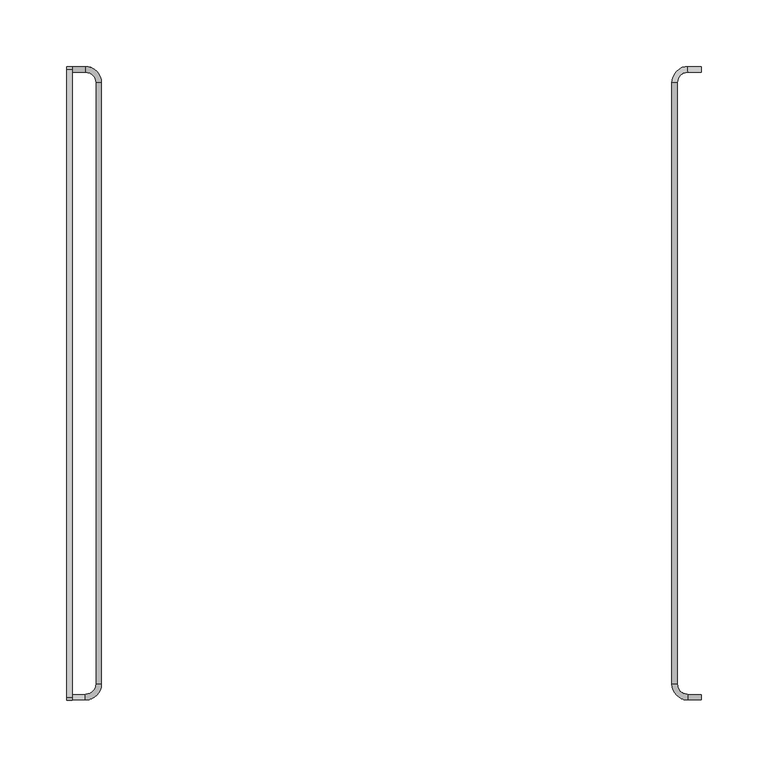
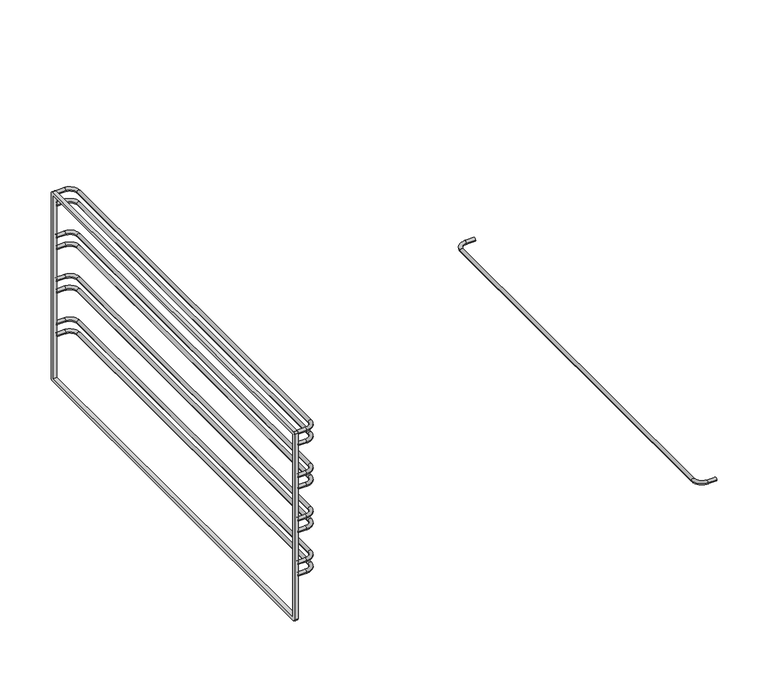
"""IFC4 building model written with IfcOpenShell, lengths in millimetres: proxy geometry, Horno_-_Microondas__Oven_-_Microwave_16796 : Horno_-_Microondas__Oven_-_Microwave_16796."""

from ifc_helpers import new_model, si_unit, point, frame, frame_2d, origin, place, context, project, spatial, polyline, circle_curve, ellipse_curve, trimmed, segment, composite_curve, outline, extrude, source, transform, mapped, element, save
from ifc_brep_helpers import plane_surface, cylinder_surface, revolved_surface, advanced_brep


def specialty_equipment_c4bc254f(model_context):
    return source(origin(), model_context, "Body", "SolidModel", [
        advanced_brep(
        [(-236.0, 496.0039923, 213.702372), (-236.0, 500.0039923, 213.702372), (-213.9982631, 488.0039923, 213.702372), (-217.9982631, 488.0039923, 213.702372), (-217.9982631, 37.0604287, 213.702372), (-213.9982631, 37.0604287, 213.702372), (-236.0, 29.0604287, 213.702372), (-236.0, 25.0604287, 213.702372), (-225.9982631, 500.0039923, 213.702372), (-225.9982631, 496.0039923, 213.702372), (-225.9982631, 29.0604287, 213.702372), (-225.9982631, 25.0604287, 213.702372)],
        [
            (0, 1, circle_curve(frame((-236.0, 498.0039923, 213.702372), z_axis=(-1.0, 0.0, 0.0), x_axis=(0.0, 1.0, 0.0)), 2.0)),
            (1, 0, circle_curve(frame((-236.0, 498.0039923, 213.702372), z_axis=(-1.0, 0.0, 0.0), x_axis=(0.0, 1.0, 0.0)), 2.0)),
            (2, 3, circle_curve(frame((-215.9982631, 488.0039923, 213.702372), z_axis=(0.0, -1.0, 0.0), x_axis=(1.0, 0.0, 0.0)), 2.0)),
            (3, 4),
            (4, 5, circle_curve(frame((-215.9982631, 37.0604287, 213.702372), z_axis=(0.0, 1.0, 0.0), x_axis=(1.0, 0.0, 0.0)), 2.0)),
            (5, 2),
            (3, 2, circle_curve(frame((-215.9982631, 488.0039923, 213.702372), z_axis=(0.0, -1.0, 0.0), x_axis=(1.0, 0.0, 0.0)), 2.0)),
            (5, 4, circle_curve(frame((-215.9982631, 37.0604287, 213.702372), z_axis=(0.0, 1.0, 0.0), x_axis=(1.0, 0.0, 0.0)), 2.0)),
            (6, 7, circle_curve(frame((-236.0, 27.0604287, 213.702372), z_axis=(-1.0, 0.0, 0.0), x_axis=(0.0, -1.0, 0.0)), 2.0)),
            (7, 6, circle_curve(frame((-236.0, 27.0604287, 213.702372), z_axis=(-1.0, 0.0, 0.0), x_axis=(0.0, -1.0, 0.0)), 2.0)),
            (1, 8),
            (8, 9, circle_curve(frame((-225.9982631, 498.0039923, 213.702372), z_axis=(-1.0, 0.0, 0.0), x_axis=(0.0, 1.0, 0.0)), 2.0)),
            (9, 0),
            (9, 8, circle_curve(frame((-225.9982631, 498.0039923, 213.702372), z_axis=(-1.0, 0.0, 0.0), x_axis=(0.0, 1.0, 0.0)), 2.0)),
            (3, 9, circle_curve(frame((-225.9982631, 488.0039923, 213.702372), z_axis=(0.0, 0.0, 1.0), x_axis=(0.0, 1.0, 0.0)), 8.0)),
            (8, 2, circle_curve(frame((-225.9982631, 488.0039923, 213.702372), z_axis=(0.0, 0.0, -1.0), x_axis=(0.0, 1.0, 0.0)), 12.0)),
            (10, 4, circle_curve(frame((-225.9982631, 37.0604287, 213.702372), z_axis=(0.0, 0.0, 1.0), x_axis=(1.0, 0.0, 0.0)), 8.0)),
            (5, 11, circle_curve(frame((-225.9982631, 37.0604287, 213.702372), z_axis=(0.0, 0.0, -1.0), x_axis=(1.0, 0.0, 0.0)), 12.0)),
            (11, 10, circle_curve(frame((-225.9982631, 27.0604287, 213.702372), z_axis=(1.0, 0.0, 0.0), x_axis=(0.0, -1.0, 0.0)), 2.0)),
            (10, 11, circle_curve(frame((-225.9982631, 27.0604287, 213.702372), z_axis=(1.0, 0.0, 0.0), x_axis=(0.0, -1.0, 0.0)), 2.0)),
            (11, 7),
            (6, 10),
        ],
        [
            plane_surface(frame((-236.0, 498.0039923, 375.702372), z_axis=(-1.0, 0.0, 0.0), x_axis=(0.0, 0.0, 1.0))),
            cylinder_surface(frame((-215.9982631, 488.0039923, 213.702372), z_axis=(0.0, 1.0, 0.0), x_axis=(1.0, 0.0, 0.0)), 2.0),
            plane_surface(frame((-236.0, 27.0604287, 375.702372), z_axis=(-1.0, 0.0, 0.0), x_axis=(0.0, 0.0, 1.0))),
            cylinder_surface(frame((-236.0, 498.0039923, 213.702372), z_axis=(-1.0, 0.0, 0.0), x_axis=(0.0, 1.0, 0.0)), 2.0),
            revolved_surface(trimmed(ellipse_curve(frame((-225.9982631, 498.0039923, 213.702372), z_axis=(-1.0, 0.0, 0.0), x_axis=(0.0, 1.0, 0.0)), 2.0, 2.0), [point((-225.9982631, 500.0039923, 213.702372))], [point((-225.9982631, 496.0039923, 213.702372))], True, "CARTESIAN"), (-225.9982631, 488.0039923, 375.702372), (0.0, 0.0, -1.0)),
            revolved_surface(trimmed(ellipse_curve(frame((-225.9982631, 498.0039923, 213.702372), z_axis=(-1.0, 0.0, 0.0), x_axis=(0.0, 1.0, 0.0)), 2.0, 2.0), [point((-225.9982631, 496.0039923, 213.702372))], [point((-225.9982631, 500.0039923, 213.702372))], True, "CARTESIAN"), (-225.9982631, 488.0039923, 375.702372), (0.0, 0.0, -1.0)),
            revolved_surface(trimmed(ellipse_curve(frame((-215.9982631, 37.0604287, 213.702372), z_axis=(0.0, 1.0, 0.0), x_axis=(1.0, 0.0, 0.0)), 2.0, 2.0), [point((-213.9982631, 37.0604287, 213.702372))], [point((-217.9982631, 37.0604287, 213.702372))], True, "CARTESIAN"), (-225.9982631, 37.0604287, 375.702372), (0.0, 0.0, -1.0)),
            revolved_surface(trimmed(ellipse_curve(frame((-215.9982631, 37.0604287, 213.702372), z_axis=(0.0, 1.0, 0.0), x_axis=(1.0, 0.0, 0.0)), 2.0, 2.0), [point((-217.9982631, 37.0604287, 213.702372))], [point((-213.9982631, 37.0604287, 213.702372))], True, "CARTESIAN"), (-225.9982631, 37.0604287, 375.702372), (0.0, 0.0, -1.0)),
            cylinder_surface(frame((-225.9982631, 27.0604287, 213.702372), z_axis=(1.0, 0.0, 0.0), x_axis=(0.0, -1.0, 0.0)), 2.0),
        ],
        [
            (0, [[1, 2]]),
            (1, [[3, 4, 5, 6]]),
            (1, [[7, -6, 8, -4]]),
            (2, [[9, 10]]),
            (3, [[-2, 11, 12, 13]]),
            (3, [[-1, -13, 14, -11]]),
            (4, [[15, -12, 16, -7]]),
            (5, [[-16, -14, -15, -3]]),
            (6, [[17, -8, 18, 19]]),
            (7, [[-18, -5, -17, 20]]),
            (8, [[-19, 21, -9, 22]]),
            (8, [[-20, -22, -10, -21]]),
        ],
    ),
        advanced_brep(
        [(-236.0, 496.0039923, 227.702372), (-236.0, 500.0039923, 227.702372), (-213.9982631, 488.0039923, 227.702372), (-217.9982631, 488.0039923, 227.702372), (-217.9982631, 37.0604287, 227.702372), (-213.9982631, 37.0604287, 227.702372), (-236.0, 29.0604287, 227.702372), (-236.0, 25.0604287, 227.702372), (-225.9982631, 500.0039923, 227.702372), (-225.9982631, 496.0039923, 227.702372), (-225.9982631, 29.0604287, 227.702372), (-225.9982631, 25.0604287, 227.702372)],
        [
            (0, 1, circle_curve(frame((-236.0, 498.0039923, 227.702372), z_axis=(-1.0, 0.0, 0.0), x_axis=(0.0, 1.0, 0.0)), 2.0)),
            (1, 0, circle_curve(frame((-236.0, 498.0039923, 227.702372), z_axis=(-1.0, 0.0, 0.0), x_axis=(0.0, 1.0, 0.0)), 2.0)),
            (2, 3, circle_curve(frame((-215.9982631, 488.0039923, 227.702372), z_axis=(0.0, -1.0, 0.0), x_axis=(1.0, 0.0, 0.0)), 2.0)),
            (3, 4),
            (4, 5, circle_curve(frame((-215.9982631, 37.0604287, 227.702372), z_axis=(0.0, 1.0, 0.0), x_axis=(1.0, 0.0, 0.0)), 2.0)),
            (5, 2),
            (3, 2, circle_curve(frame((-215.9982631, 488.0039923, 227.702372), z_axis=(0.0, -1.0, 0.0), x_axis=(1.0, 0.0, 0.0)), 2.0)),
            (5, 4, circle_curve(frame((-215.9982631, 37.0604287, 227.702372), z_axis=(0.0, 1.0, 0.0), x_axis=(1.0, 0.0, 0.0)), 2.0)),
            (6, 7, circle_curve(frame((-236.0, 27.0604287, 227.702372), z_axis=(-1.0, 0.0, 0.0), x_axis=(0.0, -1.0, 0.0)), 2.0)),
            (7, 6, circle_curve(frame((-236.0, 27.0604287, 227.702372), z_axis=(-1.0, 0.0, 0.0), x_axis=(0.0, -1.0, 0.0)), 2.0)),
            (1, 8),
            (8, 9, circle_curve(frame((-225.9982631, 498.0039923, 227.702372), z_axis=(-1.0, 0.0, 0.0), x_axis=(0.0, 1.0, 0.0)), 2.0)),
            (9, 0),
            (9, 8, circle_curve(frame((-225.9982631, 498.0039923, 227.702372), z_axis=(-1.0, 0.0, 0.0), x_axis=(0.0, 1.0, 0.0)), 2.0)),
            (3, 9, circle_curve(frame((-225.9982631, 488.0039923, 227.702372), z_axis=(0.0, 0.0, 1.0), x_axis=(0.0, 1.0, 0.0)), 8.0)),
            (8, 2, circle_curve(frame((-225.9982631, 488.0039923, 227.702372), z_axis=(0.0, 0.0, -1.0), x_axis=(0.0, 1.0, 0.0)), 12.0)),
            (10, 4, circle_curve(frame((-225.9982631, 37.0604287, 227.702372), z_axis=(0.0, 0.0, 1.0), x_axis=(1.0, 0.0, 0.0)), 8.0)),
            (5, 11, circle_curve(frame((-225.9982631, 37.0604287, 227.702372), z_axis=(0.0, 0.0, -1.0), x_axis=(1.0, 0.0, 0.0)), 12.0)),
            (11, 10, circle_curve(frame((-225.9982631, 27.0604287, 227.702372), z_axis=(1.0, 0.0, 0.0), x_axis=(0.0, -1.0, 0.0)), 2.0)),
            (10, 11, circle_curve(frame((-225.9982631, 27.0604287, 227.702372), z_axis=(1.0, 0.0, 0.0), x_axis=(0.0, -1.0, 0.0)), 2.0)),
            (11, 7),
            (6, 10),
        ],
        [
            plane_surface(frame((-236.0, 498.0039923, 389.702372), z_axis=(-1.0, 0.0, 0.0), x_axis=(0.0, 0.0, 1.0))),
            cylinder_surface(frame((-215.9982631, 488.0039923, 227.702372), z_axis=(0.0, 1.0, 0.0), x_axis=(1.0, 0.0, 0.0)), 2.0),
            plane_surface(frame((-236.0, 27.0604287, 389.702372), z_axis=(-1.0, 0.0, 0.0), x_axis=(0.0, 0.0, 1.0))),
            cylinder_surface(frame((-236.0, 498.0039923, 227.702372), z_axis=(-1.0, 0.0, 0.0), x_axis=(0.0, 1.0, 0.0)), 2.0),
            revolved_surface(trimmed(ellipse_curve(frame((-225.9982631, 498.0039923, 227.702372), z_axis=(-1.0, 0.0, 0.0), x_axis=(0.0, 1.0, 0.0)), 2.0, 2.0), [point((-225.9982631, 500.0039923, 227.702372))], [point((-225.9982631, 496.0039923, 227.702372))], True, "CARTESIAN"), (-225.9982631, 488.0039923, 389.702372), (0.0, 0.0, -1.0)),
            revolved_surface(trimmed(ellipse_curve(frame((-225.9982631, 498.0039923, 227.702372), z_axis=(-1.0, 0.0, 0.0), x_axis=(0.0, 1.0, 0.0)), 2.0, 2.0), [point((-225.9982631, 496.0039923, 227.702372))], [point((-225.9982631, 500.0039923, 227.702372))], True, "CARTESIAN"), (-225.9982631, 488.0039923, 389.702372), (0.0, 0.0, -1.0)),
            revolved_surface(trimmed(ellipse_curve(frame((-215.9982631, 37.0604287, 227.702372), z_axis=(0.0, 1.0, 0.0), x_axis=(1.0, 0.0, 0.0)), 2.0, 2.0), [point((-213.9982631, 37.0604287, 227.702372))], [point((-217.9982631, 37.0604287, 227.702372))], True, "CARTESIAN"), (-225.9982631, 37.0604287, 389.702372), (0.0, 0.0, -1.0)),
            revolved_surface(trimmed(ellipse_curve(frame((-215.9982631, 37.0604287, 227.702372), z_axis=(0.0, 1.0, 0.0), x_axis=(1.0, 0.0, 0.0)), 2.0, 2.0), [point((-217.9982631, 37.0604287, 227.702372))], [point((-213.9982631, 37.0604287, 227.702372))], True, "CARTESIAN"), (-225.9982631, 37.0604287, 389.702372), (0.0, 0.0, -1.0)),
            cylinder_surface(frame((-225.9982631, 27.0604287, 227.702372), z_axis=(1.0, 0.0, 0.0), x_axis=(0.0, -1.0, 0.0)), 2.0),
        ],
        [
            (0, [[1, 2]]),
            (1, [[3, 4, 5, 6]]),
            (1, [[7, -6, 8, -4]]),
            (2, [[9, 10]]),
            (3, [[-2, 11, 12, 13]]),
            (3, [[-1, -13, 14, -11]]),
            (4, [[15, -12, 16, -7]]),
            (5, [[-16, -14, -15, -3]]),
            (6, [[17, -8, 18, 19]]),
            (7, [[-18, -5, -17, 20]]),
            (8, [[-19, 21, -9, 22]]),
            (8, [[-20, -22, -10, -21]]),
        ],
    ),
        advanced_brep(
        [(-236.0, 496.0039923, 265.468248), (-236.0, 500.0039923, 265.468248), (-213.9982631, 488.0039923, 265.468248), (-217.9982631, 488.0039923, 265.468248), (-217.9982631, 37.0604287, 265.468248), (-213.9982631, 37.0604287, 265.468248), (-236.0, 29.0604287, 265.468248), (-236.0, 25.0604287, 265.468248), (-225.9982631, 500.0039923, 265.468248), (-225.9982631, 496.0039923, 265.468248), (-225.9982631, 29.0604287, 265.468248), (-225.9982631, 25.0604287, 265.468248)],
        [
            (0, 1, circle_curve(frame((-236.0, 498.0039923, 265.468248), z_axis=(-1.0, 0.0, 0.0), x_axis=(0.0, 1.0, 0.0)), 2.0)),
            (1, 0, circle_curve(frame((-236.0, 498.0039923, 265.468248), z_axis=(-1.0, 0.0, 0.0), x_axis=(0.0, 1.0, 0.0)), 2.0)),
            (2, 3, circle_curve(frame((-215.9982631, 488.0039923, 265.468248), z_axis=(0.0, -1.0, 0.0), x_axis=(1.0, 0.0, 0.0)), 2.0)),
            (3, 4),
            (4, 5, circle_curve(frame((-215.9982631, 37.0604287, 265.468248), z_axis=(0.0, 1.0, 0.0), x_axis=(1.0, 0.0, 0.0)), 2.0)),
            (5, 2),
            (3, 2, circle_curve(frame((-215.9982631, 488.0039923, 265.468248), z_axis=(0.0, -1.0, 0.0), x_axis=(1.0, 0.0, 0.0)), 2.0)),
            (5, 4, circle_curve(frame((-215.9982631, 37.0604287, 265.468248), z_axis=(0.0, 1.0, 0.0), x_axis=(1.0, 0.0, 0.0)), 2.0)),
            (6, 7, circle_curve(frame((-236.0, 27.0604287, 265.468248), z_axis=(-1.0, 0.0, 0.0), x_axis=(0.0, -1.0, 0.0)), 2.0)),
            (7, 6, circle_curve(frame((-236.0, 27.0604287, 265.468248), z_axis=(-1.0, 0.0, 0.0), x_axis=(0.0, -1.0, 0.0)), 2.0)),
            (1, 8),
            (8, 9, circle_curve(frame((-225.9982631, 498.0039923, 265.468248), z_axis=(-1.0, 0.0, 0.0), x_axis=(0.0, 1.0, 0.0)), 2.0)),
            (9, 0),
            (9, 8, circle_curve(frame((-225.9982631, 498.0039923, 265.468248), z_axis=(-1.0, 0.0, 0.0), x_axis=(0.0, 1.0, 0.0)), 2.0)),
            (3, 9, circle_curve(frame((-225.9982631, 488.0039923, 265.468248), z_axis=(0.0, 0.0, 1.0), x_axis=(0.0, 1.0, 0.0)), 8.0)),
            (8, 2, circle_curve(frame((-225.9982631, 488.0039923, 265.468248), z_axis=(0.0, 0.0, -1.0), x_axis=(0.0, 1.0, 0.0)), 12.0)),
            (10, 4, circle_curve(frame((-225.9982631, 37.0604287, 265.468248), z_axis=(0.0, 0.0, 1.0), x_axis=(1.0, 0.0, 0.0)), 8.0)),
            (5, 11, circle_curve(frame((-225.9982631, 37.0604287, 265.468248), z_axis=(0.0, 0.0, -1.0), x_axis=(1.0, 0.0, 0.0)), 12.0)),
            (11, 10, circle_curve(frame((-225.9982631, 27.0604287, 265.468248), z_axis=(1.0, 0.0, 0.0), x_axis=(0.0, -1.0, 0.0)), 2.0)),
            (10, 11, circle_curve(frame((-225.9982631, 27.0604287, 265.468248), z_axis=(1.0, 0.0, 0.0), x_axis=(0.0, -1.0, 0.0)), 2.0)),
            (11, 7),
            (6, 10),
        ],
        [
            plane_surface(frame((-236.0, 498.0039923, 427.468248), z_axis=(-1.0, 0.0, 0.0), x_axis=(0.0, 0.0, 1.0))),
            cylinder_surface(frame((-215.9982631, 488.0039923, 265.468248), z_axis=(0.0, 1.0, 0.0), x_axis=(1.0, 0.0, 0.0)), 2.0),
            plane_surface(frame((-236.0, 27.0604287, 427.468248), z_axis=(-1.0, 0.0, 0.0), x_axis=(0.0, 0.0, 1.0))),
            cylinder_surface(frame((-236.0, 498.0039923, 265.468248), z_axis=(-1.0, 0.0, 0.0), x_axis=(0.0, 1.0, 0.0)), 2.0),
            revolved_surface(trimmed(ellipse_curve(frame((-225.9982631, 498.0039923, 265.468248), z_axis=(-1.0, 0.0, 0.0), x_axis=(0.0, 1.0, 0.0)), 2.0, 2.0), [point((-225.9982631, 500.0039923, 265.468248))], [point((-225.9982631, 496.0039923, 265.468248))], True, "CARTESIAN"), (-225.9982631, 488.0039923, 427.468248), (0.0, 0.0, -1.0)),
            revolved_surface(trimmed(ellipse_curve(frame((-225.9982631, 498.0039923, 265.468248), z_axis=(-1.0, 0.0, 0.0), x_axis=(0.0, 1.0, 0.0)), 2.0, 2.0), [point((-225.9982631, 496.0039923, 265.468248))], [point((-225.9982631, 500.0039923, 265.468248))], True, "CARTESIAN"), (-225.9982631, 488.0039923, 427.468248), (0.0, 0.0, -1.0)),
            revolved_surface(trimmed(ellipse_curve(frame((-215.9982631, 37.0604287, 265.468248), z_axis=(0.0, 1.0, 0.0), x_axis=(1.0, 0.0, 0.0)), 2.0, 2.0), [point((-213.9982631, 37.0604287, 265.468248))], [point((-217.9982631, 37.0604287, 265.468248))], True, "CARTESIAN"), (-225.9982631, 37.0604287, 427.468248), (0.0, 0.0, -1.0)),
            revolved_surface(trimmed(ellipse_curve(frame((-215.9982631, 37.0604287, 265.468248), z_axis=(0.0, 1.0, 0.0), x_axis=(1.0, 0.0, 0.0)), 2.0, 2.0), [point((-217.9982631, 37.0604287, 265.468248))], [point((-213.9982631, 37.0604287, 265.468248))], True, "CARTESIAN"), (-225.9982631, 37.0604287, 427.468248), (0.0, 0.0, -1.0)),
            cylinder_surface(frame((-225.9982631, 27.0604287, 265.468248), z_axis=(1.0, 0.0, 0.0), x_axis=(0.0, -1.0, 0.0)), 2.0),
        ],
        [
            (0, [[1, 2]]),
            (1, [[3, 4, 5, 6]]),
            (1, [[7, -6, 8, -4]]),
            (2, [[9, 10]]),
            (3, [[-2, 11, 12, 13]]),
            (3, [[-1, -13, 14, -11]]),
            (4, [[15, -12, 16, -7]]),
            (5, [[-16, -14, -15, -3]]),
            (6, [[17, -8, 18, 19]]),
            (7, [[-18, -5, -17, 20]]),
            (8, [[-19, 21, -9, 22]]),
            (8, [[-20, -22, -10, -21]]),
        ],
    ),
        advanced_brep(
        [(-236.0, 496.0039923, 279.468248), (-236.0, 500.0039923, 279.468248), (-213.9982631, 488.0039923, 279.468248), (-217.9982631, 488.0039923, 279.468248), (-217.9982631, 37.0604287, 279.468248), (-213.9982631, 37.0604287, 279.468248), (-236.0, 29.0604287, 279.468248), (-236.0, 25.0604287, 279.468248), (-225.9982631, 500.0039923, 279.468248), (-225.9982631, 496.0039923, 279.468248), (-225.9982631, 29.0604287, 279.468248), (-225.9982631, 25.0604287, 279.468248)],
        [
            (0, 1, circle_curve(frame((-236.0, 498.0039923, 279.468248), z_axis=(-1.0, 0.0, 0.0), x_axis=(0.0, 1.0, 0.0)), 2.0)),
            (1, 0, circle_curve(frame((-236.0, 498.0039923, 279.468248), z_axis=(-1.0, 0.0, 0.0), x_axis=(0.0, 1.0, 0.0)), 2.0)),
            (2, 3, circle_curve(frame((-215.9982631, 488.0039923, 279.468248), z_axis=(0.0, -1.0, 0.0), x_axis=(1.0, 0.0, 0.0)), 2.0)),
            (3, 4),
            (4, 5, circle_curve(frame((-215.9982631, 37.0604287, 279.468248), z_axis=(0.0, 1.0, 0.0), x_axis=(1.0, 0.0, 0.0)), 2.0)),
            (5, 2),
            (3, 2, circle_curve(frame((-215.9982631, 488.0039923, 279.468248), z_axis=(0.0, -1.0, 0.0), x_axis=(1.0, 0.0, 0.0)), 2.0)),
            (5, 4, circle_curve(frame((-215.9982631, 37.0604287, 279.468248), z_axis=(0.0, 1.0, 0.0), x_axis=(1.0, 0.0, 0.0)), 2.0)),
            (6, 7, circle_curve(frame((-236.0, 27.0604287, 279.468248), z_axis=(-1.0, 0.0, 0.0), x_axis=(0.0, -1.0, 0.0)), 2.0)),
            (7, 6, circle_curve(frame((-236.0, 27.0604287, 279.468248), z_axis=(-1.0, 0.0, 0.0), x_axis=(0.0, -1.0, 0.0)), 2.0)),
            (1, 8),
            (8, 9, circle_curve(frame((-225.9982631, 498.0039923, 279.468248), z_axis=(-1.0, 0.0, 0.0), x_axis=(0.0, 1.0, 0.0)), 2.0)),
            (9, 0),
            (9, 8, circle_curve(frame((-225.9982631, 498.0039923, 279.468248), z_axis=(-1.0, 0.0, 0.0), x_axis=(0.0, 1.0, 0.0)), 2.0)),
            (3, 9, circle_curve(frame((-225.9982631, 488.0039923, 279.468248), z_axis=(0.0, 0.0, 1.0), x_axis=(0.0, 1.0, 0.0)), 8.0)),
            (8, 2, circle_curve(frame((-225.9982631, 488.0039923, 279.468248), z_axis=(0.0, 0.0, -1.0), x_axis=(0.0, 1.0, 0.0)), 12.0)),
            (10, 4, circle_curve(frame((-225.9982631, 37.0604287, 279.468248), z_axis=(0.0, 0.0, 1.0), x_axis=(1.0, 0.0, 0.0)), 8.0)),
            (5, 11, circle_curve(frame((-225.9982631, 37.0604287, 279.468248), z_axis=(0.0, 0.0, -1.0), x_axis=(1.0, 0.0, 0.0)), 12.0)),
            (11, 10, circle_curve(frame((-225.9982631, 27.0604287, 279.468248), z_axis=(1.0, 0.0, 0.0), x_axis=(0.0, -1.0, 0.0)), 2.0)),
            (10, 11, circle_curve(frame((-225.9982631, 27.0604287, 279.468248), z_axis=(1.0, 0.0, 0.0), x_axis=(0.0, -1.0, 0.0)), 2.0)),
            (11, 7),
            (6, 10),
        ],
        [
            plane_surface(frame((-236.0, 498.0039923, 441.468248), z_axis=(-1.0, 0.0, 0.0), x_axis=(0.0, 0.0, 1.0))),
            cylinder_surface(frame((-215.9982631, 488.0039923, 279.468248), z_axis=(0.0, 1.0, 0.0), x_axis=(1.0, 0.0, 0.0)), 2.0),
            plane_surface(frame((-236.0, 27.0604287, 441.468248), z_axis=(-1.0, 0.0, 0.0), x_axis=(0.0, 0.0, 1.0))),
            cylinder_surface(frame((-236.0, 498.0039923, 279.468248), z_axis=(-1.0, 0.0, 0.0), x_axis=(0.0, 1.0, 0.0)), 2.0),
            revolved_surface(trimmed(ellipse_curve(frame((-225.9982631, 498.0039923, 279.468248), z_axis=(-1.0, 0.0, 0.0), x_axis=(0.0, 1.0, 0.0)), 2.0, 2.0), [point((-225.9982631, 500.0039923, 279.468248))], [point((-225.9982631, 496.0039923, 279.468248))], True, "CARTESIAN"), (-225.9982631, 488.0039923, 441.468248), (0.0, 0.0, -1.0)),
            revolved_surface(trimmed(ellipse_curve(frame((-225.9982631, 498.0039923, 279.468248), z_axis=(-1.0, 0.0, 0.0), x_axis=(0.0, 1.0, 0.0)), 2.0, 2.0), [point((-225.9982631, 496.0039923, 279.468248))], [point((-225.9982631, 500.0039923, 279.468248))], True, "CARTESIAN"), (-225.9982631, 488.0039923, 441.468248), (0.0, 0.0, -1.0)),
            revolved_surface(trimmed(ellipse_curve(frame((-215.9982631, 37.0604287, 279.468248), z_axis=(0.0, 1.0, 0.0), x_axis=(1.0, 0.0, 0.0)), 2.0, 2.0), [point((-213.9982631, 37.0604287, 279.468248))], [point((-217.9982631, 37.0604287, 279.468248))], True, "CARTESIAN"), (-225.9982631, 37.0604287, 441.468248), (0.0, 0.0, -1.0)),
            revolved_surface(trimmed(ellipse_curve(frame((-215.9982631, 37.0604287, 279.468248), z_axis=(0.0, 1.0, 0.0), x_axis=(1.0, 0.0, 0.0)), 2.0, 2.0), [point((-217.9982631, 37.0604287, 279.468248))], [point((-213.9982631, 37.0604287, 279.468248))], True, "CARTESIAN"), (-225.9982631, 37.0604287, 441.468248), (0.0, 0.0, -1.0)),
            cylinder_surface(frame((-225.9982631, 27.0604287, 279.468248), z_axis=(1.0, 0.0, 0.0), x_axis=(0.0, -1.0, 0.0)), 2.0),
        ],
        [
            (0, [[1, 2]]),
            (1, [[3, 4, 5, 6]]),
            (1, [[7, -6, 8, -4]]),
            (2, [[9, 10]]),
            (3, [[-2, 11, 12, 13]]),
            (3, [[-1, -13, 14, -11]]),
            (4, [[15, -12, 16, -7]]),
            (5, [[-16, -14, -15, -3]]),
            (6, [[17, -8, 18, 19]]),
            (7, [[-18, -5, -17, 20]]),
            (8, [[-19, 21, -9, 22]]),
            (8, [[-20, -22, -10, -21]]),
        ],
    ),
        advanced_brep(
        [(-236.0, 496.0039923, 317.234124), (-236.0, 500.0039923, 317.234124), (-213.9982631, 488.0039923, 317.234124), (-217.9982631, 488.0039923, 317.234124), (-217.9982631, 37.0604287, 317.234124), (-213.9982631, 37.0604287, 317.234124), (-236.0, 29.0604287, 317.234124), (-236.0, 25.0604287, 317.234124), (-225.9982631, 500.0039923, 317.234124), (-225.9982631, 496.0039923, 317.234124), (-225.9982631, 29.0604287, 317.234124), (-225.9982631, 25.0604287, 317.234124)],
        [
            (0, 1, circle_curve(frame((-236.0, 498.0039923, 317.234124), z_axis=(-1.0, 0.0, 0.0), x_axis=(0.0, 1.0, 0.0)), 2.0)),
            (1, 0, circle_curve(frame((-236.0, 498.0039923, 317.234124), z_axis=(-1.0, 0.0, 0.0), x_axis=(0.0, 1.0, 0.0)), 2.0)),
            (2, 3, circle_curve(frame((-215.9982631, 488.0039923, 317.234124), z_axis=(0.0, -1.0, 0.0), x_axis=(1.0, 0.0, 0.0)), 2.0)),
            (3, 4),
            (4, 5, circle_curve(frame((-215.9982631, 37.0604287, 317.234124), z_axis=(0.0, 1.0, 0.0), x_axis=(1.0, 0.0, 0.0)), 2.0)),
            (5, 2),
            (3, 2, circle_curve(frame((-215.9982631, 488.0039923, 317.234124), z_axis=(0.0, -1.0, 0.0), x_axis=(1.0, 0.0, 0.0)), 2.0)),
            (5, 4, circle_curve(frame((-215.9982631, 37.0604287, 317.234124), z_axis=(0.0, 1.0, 0.0), x_axis=(1.0, 0.0, 0.0)), 2.0)),
            (6, 7, circle_curve(frame((-236.0, 27.0604287, 317.234124), z_axis=(-1.0, 0.0, 0.0), x_axis=(0.0, -1.0, 0.0)), 2.0)),
            (7, 6, circle_curve(frame((-236.0, 27.0604287, 317.234124), z_axis=(-1.0, 0.0, 0.0), x_axis=(0.0, -1.0, 0.0)), 2.0)),
            (1, 8),
            (8, 9, circle_curve(frame((-225.9982631, 498.0039923, 317.234124), z_axis=(-1.0, 0.0, 0.0), x_axis=(0.0, 1.0, 0.0)), 2.0)),
            (9, 0),
            (9, 8, circle_curve(frame((-225.9982631, 498.0039923, 317.234124), z_axis=(-1.0, 0.0, 0.0), x_axis=(0.0, 1.0, 0.0)), 2.0)),
            (3, 9, circle_curve(frame((-225.9982631, 488.0039923, 317.234124), z_axis=(0.0, 0.0, 1.0), x_axis=(0.0, 1.0, 0.0)), 8.0)),
            (8, 2, circle_curve(frame((-225.9982631, 488.0039923, 317.234124), z_axis=(0.0, 0.0, -1.0), x_axis=(0.0, 1.0, 0.0)), 12.0)),
            (10, 4, circle_curve(frame((-225.9982631, 37.0604287, 317.234124), z_axis=(0.0, 0.0, 1.0), x_axis=(1.0, 0.0, 0.0)), 8.0)),
            (5, 11, circle_curve(frame((-225.9982631, 37.0604287, 317.234124), z_axis=(0.0, 0.0, -1.0), x_axis=(1.0, 0.0, 0.0)), 12.0)),
            (11, 10, circle_curve(frame((-225.9982631, 27.0604287, 317.234124), z_axis=(1.0, 0.0, 0.0), x_axis=(0.0, -1.0, 0.0)), 2.0)),
            (10, 11, circle_curve(frame((-225.9982631, 27.0604287, 317.234124), z_axis=(1.0, 0.0, 0.0), x_axis=(0.0, -1.0, 0.0)), 2.0)),
            (11, 7),
            (6, 10),
        ],
        [
            plane_surface(frame((-236.0, 498.0039923, 479.234124), z_axis=(-1.0, 0.0, 0.0), x_axis=(0.0, 0.0, 1.0))),
            cylinder_surface(frame((-215.9982631, 488.0039923, 317.234124), z_axis=(0.0, 1.0, 0.0), x_axis=(1.0, 0.0, 0.0)), 2.0),
            plane_surface(frame((-236.0, 27.0604287, 479.234124), z_axis=(-1.0, 0.0, 0.0), x_axis=(0.0, 0.0, 1.0))),
            cylinder_surface(frame((-236.0, 498.0039923, 317.234124), z_axis=(-1.0, 0.0, 0.0), x_axis=(0.0, 1.0, 0.0)), 2.0),
            revolved_surface(trimmed(ellipse_curve(frame((-225.9982631, 498.0039923, 317.234124), z_axis=(-1.0, 0.0, 0.0), x_axis=(0.0, 1.0, 0.0)), 2.0, 2.0), [point((-225.9982631, 500.0039923, 317.234124))], [point((-225.9982631, 496.0039923, 317.234124))], True, "CARTESIAN"), (-225.9982631, 488.0039923, 479.234124), (0.0, 0.0, -1.0)),
            revolved_surface(trimmed(ellipse_curve(frame((-225.9982631, 498.0039923, 317.234124), z_axis=(-1.0, 0.0, 0.0), x_axis=(0.0, 1.0, 0.0)), 2.0, 2.0), [point((-225.9982631, 496.0039923, 317.234124))], [point((-225.9982631, 500.0039923, 317.234124))], True, "CARTESIAN"), (-225.9982631, 488.0039923, 479.234124), (0.0, 0.0, -1.0)),
            revolved_surface(trimmed(ellipse_curve(frame((-215.9982631, 37.0604287, 317.234124), z_axis=(0.0, 1.0, 0.0), x_axis=(1.0, 0.0, 0.0)), 2.0, 2.0), [point((-213.9982631, 37.0604287, 317.234124))], [point((-217.9982631, 37.0604287, 317.234124))], True, "CARTESIAN"), (-225.9982631, 37.0604287, 479.234124), (0.0, 0.0, -1.0)),
            revolved_surface(trimmed(ellipse_curve(frame((-215.9982631, 37.0604287, 317.234124), z_axis=(0.0, 1.0, 0.0), x_axis=(1.0, 0.0, 0.0)), 2.0, 2.0), [point((-217.9982631, 37.0604287, 317.234124))], [point((-213.9982631, 37.0604287, 317.234124))], True, "CARTESIAN"), (-225.9982631, 37.0604287, 479.234124), (0.0, 0.0, -1.0)),
            cylinder_surface(frame((-225.9982631, 27.0604287, 317.234124), z_axis=(1.0, 0.0, 0.0), x_axis=(0.0, -1.0, 0.0)), 2.0),
        ],
        [
            (0, [[1, 2]]),
            (1, [[3, 4, 5, 6]]),
            (1, [[7, -6, 8, -4]]),
            (2, [[9, 10]]),
            (3, [[-2, 11, 12, 13]]),
            (3, [[-1, -13, 14, -11]]),
            (4, [[15, -12, 16, -7]]),
            (5, [[-16, -14, -15, -3]]),
            (6, [[17, -8, 18, 19]]),
            (7, [[-18, -5, -17, 20]]),
            (8, [[-19, 21, -9, 22]]),
            (8, [[-20, -22, -10, -21]]),
        ],
    ),
        advanced_brep(
        [(-236.0, 496.0039923, 331.234124), (-236.0, 500.0039923, 331.234124), (-213.9982631, 488.0039923, 331.234124), (-217.9982631, 488.0039923, 331.234124), (-217.9982631, 37.0604287, 331.234124), (-213.9982631, 37.0604287, 331.234124), (-236.0, 29.0604287, 331.234124), (-236.0, 25.0604287, 331.234124), (-225.9982631, 500.0039923, 331.234124), (-225.9982631, 496.0039923, 331.234124), (-225.9982631, 29.0604287, 331.234124), (-225.9982631, 25.0604287, 331.234124)],
        [
            (0, 1, circle_curve(frame((-236.0, 498.0039923, 331.234124), z_axis=(-1.0, 0.0, 0.0), x_axis=(0.0, 1.0, 0.0)), 2.0)),
            (1, 0, circle_curve(frame((-236.0, 498.0039923, 331.234124), z_axis=(-1.0, 0.0, 0.0), x_axis=(0.0, 1.0, 0.0)), 2.0)),
            (2, 3, circle_curve(frame((-215.9982631, 488.0039923, 331.234124), z_axis=(0.0, -1.0, 0.0), x_axis=(1.0, 0.0, 0.0)), 2.0)),
            (3, 4),
            (4, 5, circle_curve(frame((-215.9982631, 37.0604287, 331.234124), z_axis=(0.0, 1.0, 0.0), x_axis=(1.0, 0.0, 0.0)), 2.0)),
            (5, 2),
            (3, 2, circle_curve(frame((-215.9982631, 488.0039923, 331.234124), z_axis=(0.0, -1.0, 0.0), x_axis=(1.0, 0.0, 0.0)), 2.0)),
            (5, 4, circle_curve(frame((-215.9982631, 37.0604287, 331.234124), z_axis=(0.0, 1.0, 0.0), x_axis=(1.0, 0.0, 0.0)), 2.0)),
            (6, 7, circle_curve(frame((-236.0, 27.0604287, 331.234124), z_axis=(-1.0, 0.0, 0.0), x_axis=(0.0, -1.0, 0.0)), 2.0)),
            (7, 6, circle_curve(frame((-236.0, 27.0604287, 331.234124), z_axis=(-1.0, 0.0, 0.0), x_axis=(0.0, -1.0, 0.0)), 2.0)),
            (1, 8),
            (8, 9, circle_curve(frame((-225.9982631, 498.0039923, 331.234124), z_axis=(-1.0, 0.0, 0.0), x_axis=(0.0, 1.0, 0.0)), 2.0)),
            (9, 0),
            (9, 8, circle_curve(frame((-225.9982631, 498.0039923, 331.234124), z_axis=(-1.0, 0.0, 0.0), x_axis=(0.0, 1.0, 0.0)), 2.0)),
            (3, 9, circle_curve(frame((-225.9982631, 488.0039923, 331.234124), z_axis=(0.0, 0.0, 1.0), x_axis=(0.0, 1.0, 0.0)), 8.0)),
            (8, 2, circle_curve(frame((-225.9982631, 488.0039923, 331.234124), z_axis=(0.0, 0.0, -1.0), x_axis=(0.0, 1.0, 0.0)), 12.0)),
            (10, 4, circle_curve(frame((-225.9982631, 37.0604287, 331.234124), z_axis=(0.0, 0.0, 1.0), x_axis=(1.0, 0.0, 0.0)), 8.0)),
            (5, 11, circle_curve(frame((-225.9982631, 37.0604287, 331.234124), z_axis=(0.0, 0.0, -1.0), x_axis=(1.0, 0.0, 0.0)), 12.0)),
            (11, 10, circle_curve(frame((-225.9982631, 27.0604287, 331.234124), z_axis=(1.0, 0.0, 0.0), x_axis=(0.0, -1.0, 0.0)), 2.0)),
            (10, 11, circle_curve(frame((-225.9982631, 27.0604287, 331.234124), z_axis=(1.0, 0.0, 0.0), x_axis=(0.0, -1.0, 0.0)), 2.0)),
            (11, 7),
            (6, 10),
        ],
        [
            plane_surface(frame((-236.0, 498.0039923, 493.234124), z_axis=(-1.0, 0.0, 0.0), x_axis=(0.0, 0.0, 1.0))),
            cylinder_surface(frame((-215.9982631, 488.0039923, 331.234124), z_axis=(0.0, 1.0, 0.0), x_axis=(1.0, 0.0, 0.0)), 2.0),
            plane_surface(frame((-236.0, 27.0604287, 493.234124), z_axis=(-1.0, 0.0, 0.0), x_axis=(0.0, 0.0, 1.0))),
            cylinder_surface(frame((-236.0, 498.0039923, 331.234124), z_axis=(-1.0, 0.0, 0.0), x_axis=(0.0, 1.0, 0.0)), 2.0),
            revolved_surface(trimmed(ellipse_curve(frame((-225.9982631, 498.0039923, 331.234124), z_axis=(-1.0, 0.0, 0.0), x_axis=(0.0, 1.0, 0.0)), 2.0, 2.0), [point((-225.9982631, 500.0039923, 331.234124))], [point((-225.9982631, 496.0039923, 331.234124))], True, "CARTESIAN"), (-225.9982631, 488.0039923, 493.234124), (0.0, 0.0, -1.0)),
            revolved_surface(trimmed(ellipse_curve(frame((-225.9982631, 498.0039923, 331.234124), z_axis=(-1.0, 0.0, 0.0), x_axis=(0.0, 1.0, 0.0)), 2.0, 2.0), [point((-225.9982631, 496.0039923, 331.234124))], [point((-225.9982631, 500.0039923, 331.234124))], True, "CARTESIAN"), (-225.9982631, 488.0039923, 493.234124), (0.0, 0.0, -1.0)),
            revolved_surface(trimmed(ellipse_curve(frame((-215.9982631, 37.0604287, 331.234124), z_axis=(0.0, 1.0, 0.0), x_axis=(1.0, 0.0, 0.0)), 2.0, 2.0), [point((-213.9982631, 37.0604287, 331.234124))], [point((-217.9982631, 37.0604287, 331.234124))], True, "CARTESIAN"), (-225.9982631, 37.0604287, 493.234124), (0.0, 0.0, -1.0)),
            revolved_surface(trimmed(ellipse_curve(frame((-215.9982631, 37.0604287, 331.234124), z_axis=(0.0, 1.0, 0.0), x_axis=(1.0, 0.0, 0.0)), 2.0, 2.0), [point((-217.9982631, 37.0604287, 331.234124))], [point((-213.9982631, 37.0604287, 331.234124))], True, "CARTESIAN"), (-225.9982631, 37.0604287, 493.234124), (0.0, 0.0, -1.0)),
            cylinder_surface(frame((-225.9982631, 27.0604287, 331.234124), z_axis=(1.0, 0.0, 0.0), x_axis=(0.0, -1.0, 0.0)), 2.0),
        ],
        [
            (0, [[1, 2]]),
            (1, [[3, 4, 5, 6]]),
            (1, [[7, -6, 8, -4]]),
            (2, [[9, 10]]),
            (3, [[-2, 11, 12, 13]]),
            (3, [[-1, -13, 14, -11]]),
            (4, [[15, -12, 16, -7]]),
            (5, [[-16, -14, -15, -3]]),
            (6, [[17, -8, 18, 19]]),
            (7, [[-18, -5, -17, 20]]),
            (8, [[-19, 21, -9, 22]]),
            (8, [[-20, -22, -10, -21]]),
        ],
    ),
        advanced_brep(
        [(-236.0, 496.0039923, 369.0), (-236.0, 500.0039923, 369.0), (-213.9982631, 488.0039923, 369.0), (-217.9982631, 488.0039923, 369.0), (-217.9982631, 37.0604287, 369.0), (-213.9982631, 37.0604287, 369.0), (-236.0, 29.0604287, 369.0), (-236.0, 25.0604287, 369.0), (-225.9982631, 500.0039923, 369.0), (-225.9982631, 496.0039923, 369.0), (-225.9982631, 29.0604287, 369.0), (-225.9982631, 25.0604287, 369.0)],
        [
            (0, 1, circle_curve(frame((-236.0, 498.0039923, 369.0), z_axis=(-1.0, 0.0, 0.0), x_axis=(0.0, 1.0, 0.0)), 2.0)),
            (1, 0, circle_curve(frame((-236.0, 498.0039923, 369.0), z_axis=(-1.0, 0.0, 0.0), x_axis=(0.0, 1.0, 0.0)), 2.0)),
            (2, 3, circle_curve(frame((-215.9982631, 488.0039923, 369.0), z_axis=(0.0, -1.0, 0.0), x_axis=(1.0, 0.0, 0.0)), 2.0)),
            (3, 4),
            (4, 5, circle_curve(frame((-215.9982631, 37.0604287, 369.0), z_axis=(0.0, 1.0, 0.0), x_axis=(1.0, 0.0, 0.0)), 2.0)),
            (5, 2),
            (3, 2, circle_curve(frame((-215.9982631, 488.0039923, 369.0), z_axis=(0.0, -1.0, 0.0), x_axis=(1.0, 0.0, 0.0)), 2.0)),
            (5, 4, circle_curve(frame((-215.9982631, 37.0604287, 369.0), z_axis=(0.0, 1.0, 0.0), x_axis=(1.0, 0.0, 0.0)), 2.0)),
            (6, 7, circle_curve(frame((-236.0, 27.0604287, 369.0), z_axis=(-1.0, 0.0, 0.0), x_axis=(0.0, -1.0, 0.0)), 2.0)),
            (7, 6, circle_curve(frame((-236.0, 27.0604287, 369.0), z_axis=(-1.0, 0.0, 0.0), x_axis=(0.0, -1.0, 0.0)), 2.0)),
            (1, 8),
            (8, 9, circle_curve(frame((-225.9982631, 498.0039923, 369.0), z_axis=(-1.0, 0.0, 0.0), x_axis=(0.0, 1.0, 0.0)), 2.0)),
            (9, 0),
            (9, 8, circle_curve(frame((-225.9982631, 498.0039923, 369.0), z_axis=(-1.0, 0.0, 0.0), x_axis=(0.0, 1.0, 0.0)), 2.0)),
            (3, 9, circle_curve(frame((-225.9982631, 488.0039923, 369.0), z_axis=(0.0, 0.0, 1.0), x_axis=(0.0, 1.0, 0.0)), 8.0)),
            (8, 2, circle_curve(frame((-225.9982631, 488.0039923, 369.0), z_axis=(0.0, 0.0, -1.0), x_axis=(0.0, 1.0, 0.0)), 12.0)),
            (10, 4, circle_curve(frame((-225.9982631, 37.0604287, 369.0), z_axis=(0.0, 0.0, 1.0), x_axis=(1.0, 0.0, 0.0)), 8.0)),
            (5, 11, circle_curve(frame((-225.9982631, 37.0604287, 369.0), z_axis=(0.0, 0.0, -1.0), x_axis=(1.0, 0.0, 0.0)), 12.0)),
            (11, 10, circle_curve(frame((-225.9982631, 27.0604287, 369.0), z_axis=(1.0, 0.0, 0.0), x_axis=(0.0, -1.0, 0.0)), 2.0)),
            (10, 11, circle_curve(frame((-225.9982631, 27.0604287, 369.0), z_axis=(1.0, 0.0, 0.0), x_axis=(0.0, -1.0, 0.0)), 2.0)),
            (11, 7),
            (6, 10),
        ],
        [
            plane_surface(frame((-236.0, 498.0039923, 531.0), z_axis=(-1.0, 0.0, 0.0), x_axis=(0.0, 0.0, 1.0))),
            cylinder_surface(frame((-215.9982631, 488.0039923, 369.0), z_axis=(0.0, 1.0, 0.0), x_axis=(1.0, 0.0, 0.0)), 2.0),
            plane_surface(frame((-236.0, 27.0604287, 531.0), z_axis=(-1.0, 0.0, 0.0), x_axis=(0.0, 0.0, 1.0))),
            cylinder_surface(frame((-236.0, 498.0039923, 369.0), z_axis=(-1.0, 0.0, 0.0), x_axis=(0.0, 1.0, 0.0)), 2.0),
            revolved_surface(trimmed(ellipse_curve(frame((-225.9982631, 498.0039923, 369.0), z_axis=(-1.0, 0.0, 0.0), x_axis=(0.0, 1.0, 0.0)), 2.0, 2.0), [point((-225.9982631, 500.0039923, 369.0))], [point((-225.9982631, 496.0039923, 369.0))], True, "CARTESIAN"), (-225.9982631, 488.0039923, 531.0), (0.0, 0.0, -1.0)),
            revolved_surface(trimmed(ellipse_curve(frame((-225.9982631, 498.0039923, 369.0), z_axis=(-1.0, 0.0, 0.0), x_axis=(0.0, 1.0, 0.0)), 2.0, 2.0), [point((-225.9982631, 496.0039923, 369.0))], [point((-225.9982631, 500.0039923, 369.0))], True, "CARTESIAN"), (-225.9982631, 488.0039923, 531.0), (0.0, 0.0, -1.0)),
            revolved_surface(trimmed(ellipse_curve(frame((-215.9982631, 37.0604287, 369.0), z_axis=(0.0, 1.0, 0.0), x_axis=(1.0, 0.0, 0.0)), 2.0, 2.0), [point((-213.9982631, 37.0604287, 369.0))], [point((-217.9982631, 37.0604287, 369.0))], True, "CARTESIAN"), (-225.9982631, 37.0604287, 531.0), (0.0, 0.0, -1.0)),
            revolved_surface(trimmed(ellipse_curve(frame((-215.9982631, 37.0604287, 369.0), z_axis=(0.0, 1.0, 0.0), x_axis=(1.0, 0.0, 0.0)), 2.0, 2.0), [point((-217.9982631, 37.0604287, 369.0))], [point((-213.9982631, 37.0604287, 369.0))], True, "CARTESIAN"), (-225.9982631, 37.0604287, 531.0), (0.0, 0.0, -1.0)),
            cylinder_surface(frame((-225.9982631, 27.0604287, 369.0), z_axis=(1.0, 0.0, 0.0), x_axis=(0.0, -1.0, 0.0)), 2.0),
        ],
        [
            (0, [[1, 2]]),
            (1, [[3, 4, 5, 6]]),
            (1, [[7, -6, 8, -4]]),
            (2, [[9, 10]]),
            (3, [[-2, 11, 12, 13]]),
            (3, [[-1, -13, 14, -11]]),
            (4, [[15, -12, 16, -7]]),
            (5, [[-16, -14, -15, -3]]),
            (6, [[17, -8, 18, 19]]),
            (7, [[-18, -5, -17, 20]]),
            (8, [[-19, 21, -9, 22]]),
            (8, [[-20, -22, -10, -21]]),
        ],
    ),
        extrude(outline(composite_curve([segment(trimmed(circle_curve(frame_2d((497.8633386, 382.8583866)), 2.1366614), [point((497.8633386, 384.995048))], [point((500.0, 382.8583866))], False, "CARTESIAN"), True, "CONTINUOUS"), segment(polyline([(500.0, 382.8583866), (500.0, 161.9960077)]), True, "CONTINUOUS"), segment(trimmed(circle_curve(frame_2d((498.0039923, 161.9960077)), 1.9960077), [point((500.0, 161.9960077))], [point((498.0039923, 160.0))], False, "CARTESIAN"), True, "CONTINUOUS"), segment(polyline([(498.0039923, 160.0), (27.0653807, 160.0)]), True, "CONTINUOUS"), segment(trimmed(circle_curve(frame_2d((27.0653807, 162.0643453)), 2.0643453), [point((27.0653807, 160.0))], [point((25.0010353, 162.0643453))], False, "CARTESIAN"), True, "CONTINUOUS"), segment(polyline([(25.0010353, 162.0643453), (25.0010353, 382.9356547)]), True, "CONTINUOUS"), segment(trimmed(circle_curve(frame_2d((27.0604287, 382.9356547)), 2.0593933), [point((25.0010353, 382.9356547))], [point((27.0604287, 384.995048))], False, "CARTESIAN"), True, "CONTINUOUS"), segment(polyline([(27.0604287, 384.995048), (497.8633386, 384.995048)]), True, "CONTINUOUS")], self_intersect=False), holes=[polyline([(496.0, 380.995048), (29.0010353, 380.995048), (29.0010353, 164.0), (496.0, 164.0), (496.0, 380.995048)])]), frame((-240.0, 0.0, 0.0), z_axis=(1.0, 0.0, 0.0), x_axis=(0.0, 1.0, 0.0)), (0.0, 0.0, 1.0), 4.0),
        advanced_brep(
        [(-236.0, 496.0039923, 383.0), (-236.0, 500.0039923, 383.0), (-213.9982631, 488.0039923, 383.0), (-217.9982631, 488.0039923, 383.0), (-217.9982631, 37.0604287, 383.0), (-213.9982631, 37.0604287, 383.0), (-236.0, 29.0604287, 383.0), (-236.0, 25.0604287, 383.0), (-225.9982631, 500.0039923, 383.0), (-225.9982631, 496.0039923, 383.0), (-225.9982631, 29.0604287, 383.0), (-225.9982631, 25.0604287, 383.0)],
        [
            (0, 1, circle_curve(frame((-236.0, 498.0039923, 383.0), z_axis=(-1.0, 0.0, 0.0), x_axis=(0.0, 1.0, 0.0)), 2.0)),
            (1, 0, circle_curve(frame((-236.0, 498.0039923, 383.0), z_axis=(-1.0, 0.0, 0.0), x_axis=(0.0, 1.0, 0.0)), 2.0)),
            (2, 3, circle_curve(frame((-215.9982631, 488.0039923, 383.0), z_axis=(0.0, -1.0, 0.0), x_axis=(1.0, 0.0, 0.0)), 2.0)),
            (3, 4),
            (4, 5, circle_curve(frame((-215.9982631, 37.0604287, 383.0), z_axis=(0.0, 1.0, 0.0), x_axis=(1.0, 0.0, 0.0)), 2.0)),
            (5, 2),
            (3, 2, circle_curve(frame((-215.9982631, 488.0039923, 383.0), z_axis=(0.0, -1.0, 0.0), x_axis=(1.0, 0.0, 0.0)), 2.0)),
            (5, 4, circle_curve(frame((-215.9982631, 37.0604287, 383.0), z_axis=(0.0, 1.0, 0.0), x_axis=(1.0, 0.0, 0.0)), 2.0)),
            (6, 7, circle_curve(frame((-236.0, 27.0604287, 383.0), z_axis=(-1.0, 0.0, 0.0), x_axis=(0.0, -1.0, 0.0)), 2.0)),
            (7, 6, circle_curve(frame((-236.0, 27.0604287, 383.0), z_axis=(-1.0, 0.0, 0.0), x_axis=(0.0, -1.0, 0.0)), 2.0)),
            (1, 8),
            (8, 9, circle_curve(frame((-225.9982631, 498.0039923, 383.0), z_axis=(-1.0, 0.0, 0.0), x_axis=(0.0, 1.0, 0.0)), 2.0)),
            (9, 0),
            (9, 8, circle_curve(frame((-225.9982631, 498.0039923, 383.0), z_axis=(-1.0, 0.0, 0.0), x_axis=(0.0, 1.0, 0.0)), 2.0)),
            (3, 9, circle_curve(frame((-225.9982631, 488.0039923, 383.0), z_axis=(0.0, 0.0, 1.0), x_axis=(0.0, 1.0, 0.0)), 8.0)),
            (8, 2, circle_curve(frame((-225.9982631, 488.0039923, 383.0), z_axis=(0.0, 0.0, -1.0), x_axis=(0.0, 1.0, 0.0)), 12.0)),
            (10, 4, circle_curve(frame((-225.9982631, 37.0604287, 383.0), z_axis=(0.0, 0.0, 1.0), x_axis=(1.0, 0.0, 0.0)), 8.0)),
            (5, 11, circle_curve(frame((-225.9982631, 37.0604287, 383.0), z_axis=(0.0, 0.0, -1.0), x_axis=(1.0, 0.0, 0.0)), 12.0)),
            (11, 10, circle_curve(frame((-225.9982631, 27.0604287, 383.0), z_axis=(1.0, 0.0, 0.0), x_axis=(0.0, -1.0, 0.0)), 2.0)),
            (10, 11, circle_curve(frame((-225.9982631, 27.0604287, 383.0), z_axis=(1.0, 0.0, 0.0), x_axis=(0.0, -1.0, 0.0)), 2.0)),
            (11, 7),
            (6, 10),
        ],
        [
            plane_surface(frame((-236.0, 498.0039923, 545.0), z_axis=(-1.0, 0.0, 0.0), x_axis=(0.0, 0.0, 1.0))),
            cylinder_surface(frame((-215.9982631, 488.0039923, 383.0), z_axis=(0.0, 1.0, 0.0), x_axis=(1.0, 0.0, 0.0)), 2.0),
            plane_surface(frame((-236.0, 27.0604287, 545.0), z_axis=(-1.0, 0.0, 0.0), x_axis=(0.0, 0.0, 1.0))),
            cylinder_surface(frame((-236.0, 498.0039923, 383.0), z_axis=(-1.0, 0.0, 0.0), x_axis=(0.0, 1.0, 0.0)), 2.0),
            revolved_surface(trimmed(ellipse_curve(frame((-225.9982631, 498.0039923, 383.0), z_axis=(-1.0, 0.0, 0.0), x_axis=(0.0, 1.0, 0.0)), 2.0, 2.0), [point((-225.9982631, 500.0039923, 383.0))], [point((-225.9982631, 496.0039923, 383.0))], True, "CARTESIAN"), (-225.9982631, 488.0039923, 545.0), (0.0, 0.0, -1.0)),
            revolved_surface(trimmed(ellipse_curve(frame((-225.9982631, 498.0039923, 383.0), z_axis=(-1.0, 0.0, 0.0), x_axis=(0.0, 1.0, 0.0)), 2.0, 2.0), [point((-225.9982631, 496.0039923, 383.0))], [point((-225.9982631, 500.0039923, 383.0))], True, "CARTESIAN"), (-225.9982631, 488.0039923, 545.0), (0.0, 0.0, -1.0)),
            revolved_surface(trimmed(ellipse_curve(frame((-215.9982631, 37.0604287, 383.0), z_axis=(0.0, 1.0, 0.0), x_axis=(1.0, 0.0, 0.0)), 2.0, 2.0), [point((-213.9982631, 37.0604287, 383.0))], [point((-217.9982631, 37.0604287, 383.0))], True, "CARTESIAN"), (-225.9982631, 37.0604287, 545.0), (0.0, 0.0, -1.0)),
            revolved_surface(trimmed(ellipse_curve(frame((-215.9982631, 37.0604287, 383.0), z_axis=(0.0, 1.0, 0.0), x_axis=(1.0, 0.0, 0.0)), 2.0, 2.0), [point((-217.9982631, 37.0604287, 383.0))], [point((-213.9982631, 37.0604287, 383.0))], True, "CARTESIAN"), (-225.9982631, 37.0604287, 545.0), (0.0, 0.0, -1.0)),
            cylinder_surface(frame((-225.9982631, 27.0604287, 383.0), z_axis=(1.0, 0.0, 0.0), x_axis=(0.0, -1.0, 0.0)), 2.0),
        ],
        [
            (0, [[1, 2]]),
            (1, [[3, 4, 5, 6]]),
            (1, [[7, -6, 8, -4]]),
            (2, [[9, 10]]),
            (3, [[-2, 11, 12, 13]]),
            (3, [[-1, -13, 14, -11]]),
            (4, [[15, -12, 16, -7]]),
            (5, [[-16, -14, -15, -3]]),
            (6, [[17, -8, 18, 19]]),
            (7, [[-18, -5, -17, 20]]),
            (8, [[-19, 21, -9, 22]]),
            (8, [[-20, -22, -10, -21]]),
        ],
    ),
        advanced_brep(
        [(236.0, 496.0039923, 161.9364959), (236.0, 500.0039923, 161.9364959), (217.9982631, 488.0039923, 161.9364959), (213.9982631, 488.0039923, 161.9364959), (213.9982631, 37.0604287, 161.9364959), (217.9982631, 37.0604287, 161.9364959), (236.0, 29.0604287, 161.9364959), (236.0, 25.0604287, 161.9364959), (225.9982631, 496.0039923, 161.9364959), (225.9982631, 500.0039923, 161.9364959), (225.9982631, 25.0604287, 161.9364959), (225.9982631, 29.0604287, 161.9364959)],
        [
            (0, 1, circle_curve(frame((236.0, 498.0039923, 161.9364959), z_axis=(1.0, 0.0, 0.0), x_axis=(0.0, 1.0, 0.0)), 2.0)),
            (1, 0, circle_curve(frame((236.0, 498.0039923, 161.9364959), z_axis=(1.0, 0.0, 0.0), x_axis=(0.0, 1.0, 0.0)), 2.0)),
            (2, 3, circle_curve(frame((215.9982631, 488.0039923, 161.9364959), z_axis=(0.0, -1.0, 0.0), x_axis=(-1.0, 0.0, 0.0)), 2.0)),
            (3, 4),
            (4, 5, circle_curve(frame((215.9982631, 37.0604287, 161.9364959), z_axis=(0.0, 1.0, 0.0), x_axis=(-1.0, 0.0, 0.0)), 2.0)),
            (5, 2),
            (3, 2, circle_curve(frame((215.9982631, 488.0039923, 161.9364959), z_axis=(0.0, -1.0, 0.0), x_axis=(-1.0, 0.0, 0.0)), 2.0)),
            (5, 4, circle_curve(frame((215.9982631, 37.0604287, 161.9364959), z_axis=(0.0, 1.0, 0.0), x_axis=(-1.0, 0.0, 0.0)), 2.0)),
            (6, 7, circle_curve(frame((236.0, 27.0604287, 161.9364959), z_axis=(1.0, 0.0, 0.0), x_axis=(0.0, -1.0, 0.0)), 2.0)),
            (7, 6, circle_curve(frame((236.0, 27.0604287, 161.9364959), z_axis=(1.0, 0.0, 0.0), x_axis=(0.0, -1.0, 0.0)), 2.0)),
            (0, 8),
            (8, 9, circle_curve(frame((225.9982631, 498.0039923, 161.9364959), z_axis=(1.0, 0.0, 0.0), x_axis=(0.0, 1.0, 0.0)), 2.0)),
            (9, 1),
            (9, 8, circle_curve(frame((225.9982631, 498.0039923, 161.9364959), z_axis=(1.0, 0.0, 0.0), x_axis=(0.0, 1.0, 0.0)), 2.0)),
            (3, 9, circle_curve(frame((225.9982631, 488.0039923, 161.9364959), z_axis=(0.0, 0.0, -1.0), x_axis=(0.0, 1.0, 0.0)), 12.0)),
            (8, 2, circle_curve(frame((225.9982631, 488.0039923, 161.9364959), z_axis=(0.0, 0.0, 1.0), x_axis=(0.0, 1.0, 0.0)), 8.0)),
            (10, 4, circle_curve(frame((225.9982631, 37.0604287, 161.9364959), z_axis=(0.0, 0.0, -1.0), x_axis=(-1.0, 0.0, 0.0)), 12.0)),
            (5, 11, circle_curve(frame((225.9982631, 37.0604287, 161.9364959), z_axis=(0.0, 0.0, 1.0), x_axis=(-1.0, 0.0, 0.0)), 8.0)),
            (11, 10, circle_curve(frame((225.9982631, 27.0604287, 161.9364959), z_axis=(-1.0, 0.0, 0.0), x_axis=(0.0, -1.0, 0.0)), 2.0)),
            (10, 11, circle_curve(frame((225.9982631, 27.0604287, 161.9364959), z_axis=(-1.0, 0.0, 0.0), x_axis=(0.0, -1.0, 0.0)), 2.0)),
            (11, 6),
            (7, 10),
        ],
        [
            plane_surface(frame((236.0, 498.0039923, 323.9364959), z_axis=(1.0, 0.0, 0.0), x_axis=(0.0, 0.0, 1.0))),
            cylinder_surface(frame((215.9982631, 488.0039923, 161.9364959), z_axis=(0.0, 1.0, 0.0), x_axis=(-1.0, 0.0, 0.0)), 2.0),
            plane_surface(frame((236.0, 27.0604287, 323.9364959), z_axis=(1.0, 0.0, 0.0), x_axis=(0.0, 0.0, 1.0))),
            cylinder_surface(frame((236.0, 498.0039923, 161.9364959), z_axis=(1.0, 0.0, 0.0), x_axis=(0.0, 1.0, 0.0)), 2.0),
            revolved_surface(trimmed(ellipse_curve(frame((225.9982631, 498.0039923, 161.9364959), z_axis=(1.0, 0.0, 0.0), x_axis=(0.0, 1.0, 0.0)), 2.0, 2.0), [point((225.9982631, 496.0039923, 161.9364959))], [point((225.9982631, 500.0039923, 161.9364959))], True, "CARTESIAN"), (225.9982631, 488.0039923, 323.9364959), (0.0, 0.0, 1.0)),
            revolved_surface(trimmed(ellipse_curve(frame((225.9982631, 498.0039923, 161.9364959), z_axis=(1.0, 0.0, 0.0), x_axis=(0.0, 1.0, 0.0)), 2.0, 2.0), [point((225.9982631, 500.0039923, 161.9364959))], [point((225.9982631, 496.0039923, 161.9364959))], True, "CARTESIAN"), (225.9982631, 488.0039923, 323.9364959), (0.0, 0.0, 1.0)),
            revolved_surface(trimmed(ellipse_curve(frame((215.9982631, 37.0604287, 161.9364959), z_axis=(0.0, 1.0, 0.0), x_axis=(-1.0, 0.0, 0.0)), 2.0, 2.0), [point((217.9982631, 37.0604287, 161.9364959))], [point((213.9982631, 37.0604287, 161.9364959))], True, "CARTESIAN"), (225.9982631, 37.0604287, 323.9364959), (0.0, 0.0, 1.0)),
            revolved_surface(trimmed(ellipse_curve(frame((215.9982631, 37.0604287, 161.9364959), z_axis=(0.0, 1.0, 0.0), x_axis=(-1.0, 0.0, 0.0)), 2.0, 2.0), [point((213.9982631, 37.0604287, 161.9364959))], [point((217.9982631, 37.0604287, 161.9364959))], True, "CARTESIAN"), (225.9982631, 37.0604287, 323.9364959), (0.0, 0.0, 1.0)),
            cylinder_surface(frame((225.9982631, 27.0604287, 161.9364959), z_axis=(-1.0, 0.0, 0.0), x_axis=(0.0, -1.0, 0.0)), 2.0),
        ],
        [
            (0, [[1, 2]]),
            (1, [[3, 4, 5, 6]]),
            (1, [[7, -6, 8, -4]]),
            (2, [[9, 10]]),
            (3, [[-1, 11, 12, 13]]),
            (3, [[-2, -13, 14, -11]]),
            (4, [[15, -12, 16, -7]]),
            (5, [[-16, -14, -15, -3]]),
            (6, [[17, -8, 18, 19]]),
            (7, [[-18, -5, -17, 20]]),
            (8, [[-19, 21, -10, 22]]),
            (8, [[-20, -22, -9, -21]]),
        ],
    ),
    ])


if __name__ == "__main__":
    model = new_model("IFC4")
    model_context = context("Model", 3, world=origin())
    ifc_project = project(units=[si_unit("LENGTHUNIT", "METRE", prefix="MILLI")], contexts=[model_context])
    site = spatial("IfcSite", under=ifc_project)
    building = spatial("IfcBuilding", under=site)
    placement = place(None, origin())
    specialty_equipment_shape = specialty_equipment_c4bc254f(model_context)
    element("IfcBuildingElementProxy", 1, Name="Horno_-_Microondas__Oven_-_Microwave_16796 : Horno_-_Microondas__Oven_-_Microwave_16796", ObjectType="Horno_-_Microondas__Oven_-_Microwave_16796 : Horno_-_Microondas__Oven_-_Microwave_16796", at=placement, inside=building, context=model_context, shape_type="MappedRepresentation", body=[
        mapped(specialty_equipment_shape, transform((0.0, 0.0, 0.0), x_axis=(1.0, 0.0, 0.0), y_axis=(0.0, 1.0, 0.0), z_axis=(0.0, 0.0, 1.0))),
    ])
    save(model, "model.ifc")
